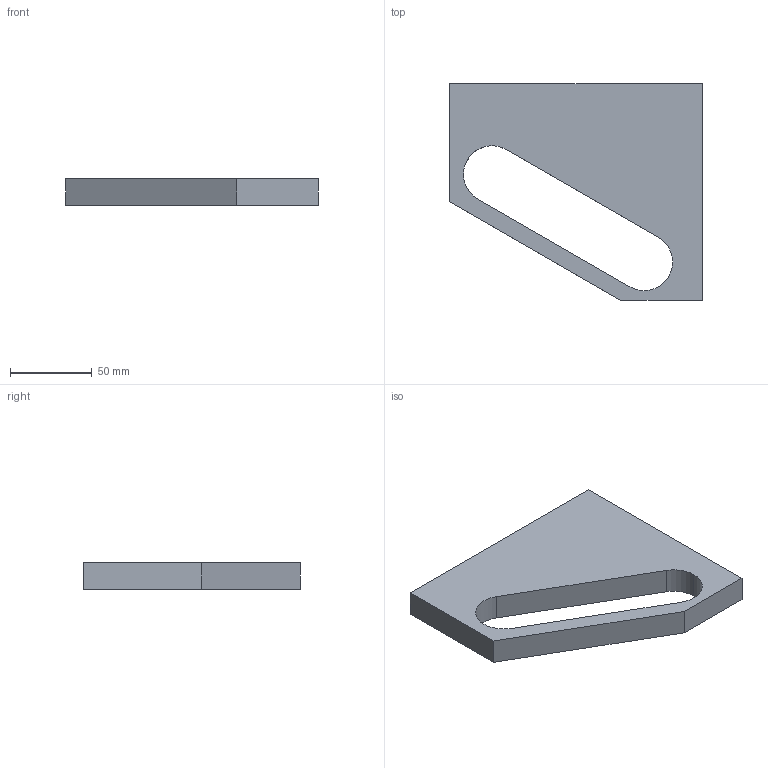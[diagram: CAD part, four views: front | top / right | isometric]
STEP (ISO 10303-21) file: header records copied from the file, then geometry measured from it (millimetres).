
FILE_DESCRIPTION (( 'STEP AP214' ), '1' );
FILE_NAME ('傾斜カム.STEP', '2024-05-17T04:42:05', ( '' ), ( '' ), 'SwSTEP 2.0', 'SolidWorks 2023', '' );
FILE_SCHEMA (( 'AUTOMOTIVE_DESIGN' ));
Length unit declared in the file: millimetre
Products named in the file (1): 傾斜カム
Bounding box: 155 x 133 x 16 mm (x, y, z)
Volume: 202776.8 mm3; surface area: 39516.9 mm2
Topology: 1 solids, 1 shells, 28 faces, 70 edges, 40 vertices
Faces by surface type: cylinder 11, plane 9, cone 8
Entity records: 803 total; most frequent: DIRECTION 142, CARTESIAN_POINT 131, ORIENTED_EDGE 124, EDGE_CURVE 62, AXIS2_PLACEMENT_3D 51, VERTEX_POINT 40, LINE 40, VECTOR 40
